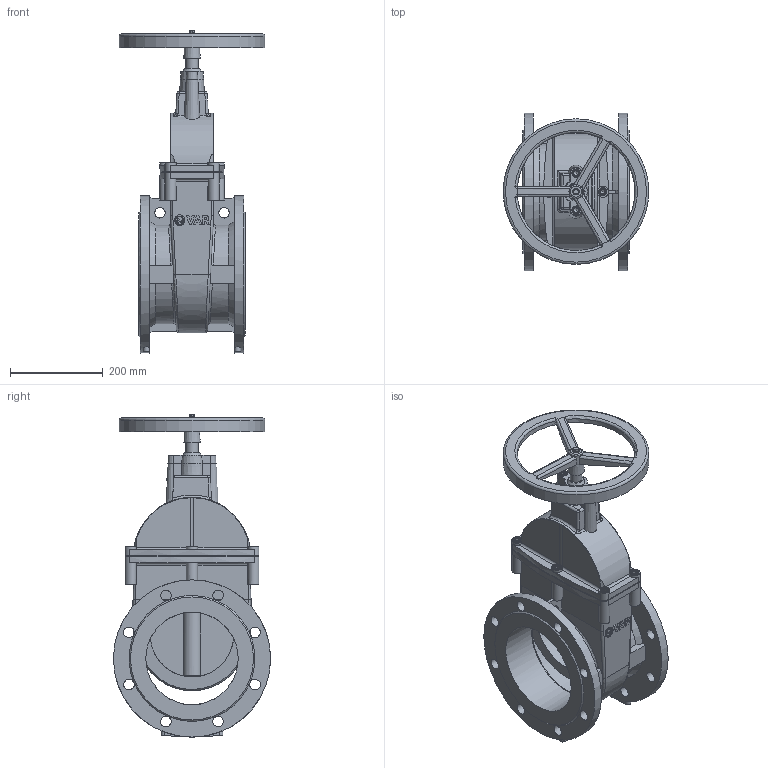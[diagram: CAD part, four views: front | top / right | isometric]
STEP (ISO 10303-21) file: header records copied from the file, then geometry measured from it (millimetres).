
FILE_DESCRIPTION(('STEP AP242'), '1');
FILE_NAME('青溻桄赅', '', ('UNSPECIFIED'), ('UNSPECIFIED'), 'C3D Converter', 'C3D Toolkit', '');
FILE_SCHEMA(('AP242_MANAGED_MODEL_BASED_3D_ENGINEERING_MIM_LF { 1 0 10303 442 1 1 4 }'));
Length unit declared in the file: millimetre
Assembly tree (17 placements, depth 2):
  (unnamed)
    (unnamed)
    (unnamed)
    (unnamed)
    (unnamed)
    (unnamed)  x2
    (unnamed)
    (unnamed)
    (unnamed)  x6
    (unnamed)  x2
    (unnamed)
Bounding box: 315 x 340 x 696.6 mm (x, y, z)
Volume: 7927883.8 mm3; surface area: 1615115.6 mm2
Topology: 20 solids, 20 shells, 948 faces, 2388 edges, 1522 vertices
Faces by surface type: plane 463, cylinder 194, extrusion 135, cone 69, bspline 66, torus 21
Full cylindrical faces by diameter (mm): 6 x3, 10 x8, 12 x30, 18 x16, 22.626 x1, 22.685 x2, 23 x16, 26 x7, 39.333 x4, 180 x2, 200 x4, 232 x4, 240 x1, 255 x1, 265 x1, 305 x1, 315 x1, 340 x2
Entity records: 42431 total; most frequent: CARTESIAN_POINT 21242, ORIENTED_EDGE 3894, DIRECTION 3109, EDGE_CURVE 1947, VERTEX_POINT 1327, EDGE_LOOP 1066, VECTOR 1039, AXIS2_PLACEMENT_3D 1035
